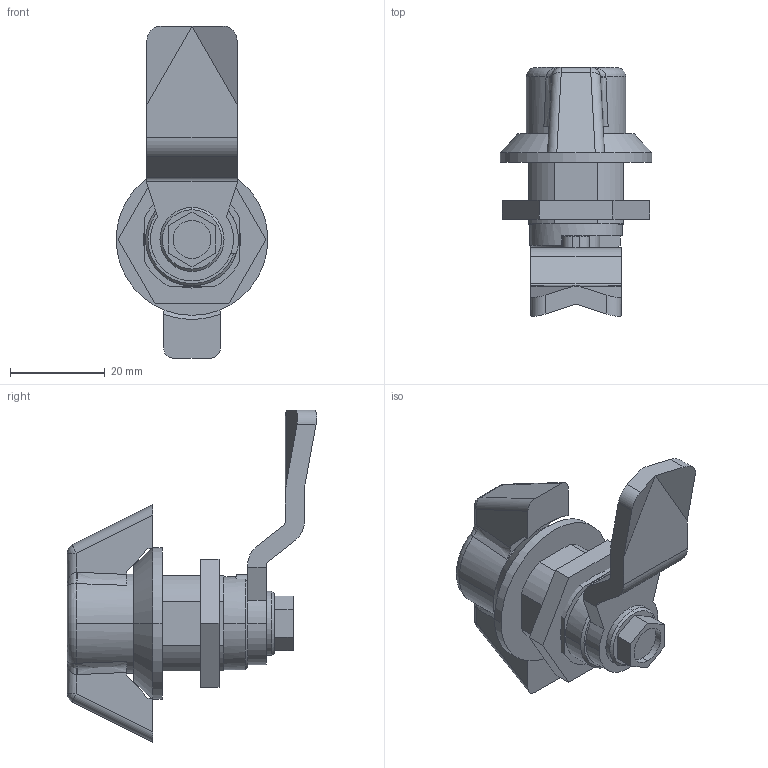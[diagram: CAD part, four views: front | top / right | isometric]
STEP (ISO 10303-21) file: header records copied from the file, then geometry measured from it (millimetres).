
FILE_DESCRIPTION (( 'STEP AP214' ), '1' );
FILE_NAME ('115-SKN-26-A4.step', '2023-07-12T12:42:15', ( '' ), ( '' ), 'SwSTEP 2.0', 'SolidWorks 2022', '' );
FILE_SCHEMA (( 'AUTOMOTIVE_DESIGN' ));
Length unit declared in the file: millimetre
Products named in the file (5): WB115_Gegenmutter^WB115_BE; WB115_Gehäuse^WB115_BE_32; WB115_Zunge^WB115_BE_26; WB115_Betätigungswelle_Hebel^WB115_BE_SKN; 115-SKN-26-A4
Assembly tree (4 placements, depth 2):
  115-SKN-26-A4
    WB115_Gehäuse^WB115_BE_32
    WB115_Betätigungswelle_Hebel^WB115_BE_SKN
    WB115_Zunge^WB115_BE_26
    WB115_Gegenmutter^WB115_BE
Bounding box: 32 x 52.59 x 70 mm (x, y, z)
Volume: 23790.7 mm3; surface area: 12562.6 mm2
Topology: 4 solids, 4 shells, 159 faces, 393 edges, 248 vertices
Faces by surface type: plane 76, cylinder 57, bspline 12, cone 7, sphere 5, torus 2
Entity records: 5778 total; most frequent: CARTESIAN_POINT 1353, DIRECTION 779, ORIENTED_EDGE 776, EDGE_CURVE 388, AXIS2_PLACEMENT_3D 286, VERTEX_POINT 248, VECTOR 207, LINE 207
